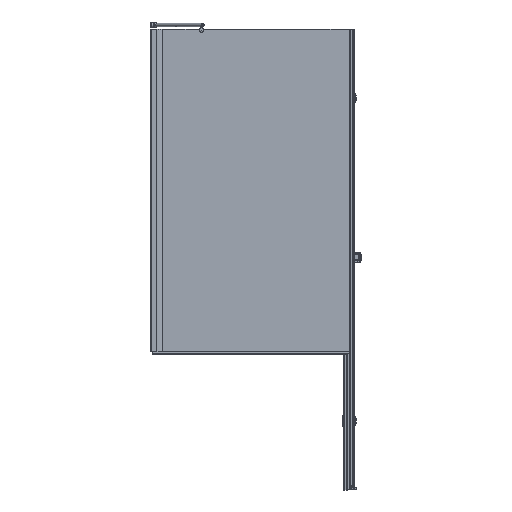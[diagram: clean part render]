
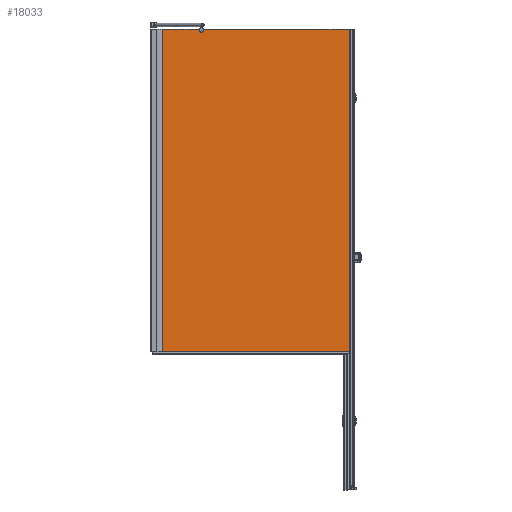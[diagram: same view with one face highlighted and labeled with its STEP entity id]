
A CAD part, front view. The second image highlights one B-rep face of the part: STEP entity #18033.
In plain terms, the highlighted planar face has unit normal (0, -1, 0).
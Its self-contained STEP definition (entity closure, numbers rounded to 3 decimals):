
#270=LINE($,#25747,#2007);
#308=LINE($,#25880,#2045);
#768=LINE($,#27426,#2505);
#774=LINE($,#27443,#2511);
#775=LINE($,#27444,#2512);
#2007=VECTOR($,#20593,631.666);
#2045=VECTOR($,#20691,160.474);
#2505=VECTOR($,#21827,1397.036);
#2511=VECTOR($,#21847,810.);
#2512=VECTOR($,#21848,1397.036);
#3980=PLANE($,#19243);
#4788=FACE_OUTER_BOUND($,#5808,.T.);
#5808=EDGE_LOOP($,(#12724,#12725,#12726,#12727,#12728,#12729));
#6628=CIRCLE($,#18846,10.);
#7240=VERTEX_POINT($,#25530);
#7242=VERTEX_POINT($,#25534);
#7263=VERTEX_POINT($,#25746);
#7328=VERTEX_POINT($,#25878);
#7746=VERTEX_POINT($,#27424);
#7750=VERTEX_POINT($,#27442);
#8887=EDGE_CURVE($,#7240,#7242,#6628,.T.);
#8915=EDGE_CURVE($,#7263,#7240,#270,.T.);
#8982=EDGE_CURVE($,#7242,#7328,#308,.T.);
#9598=EDGE_CURVE($,#7328,#7746,#768,.T.);
#9605=EDGE_CURVE($,#7750,#7746,#774,.T.);
#9606=EDGE_CURVE($,#7263,#7750,#775,.T.);
#12724=ORIENTED_EDGE($,*,*,#8887,.T.);
#12725=ORIENTED_EDGE($,*,*,#8982,.T.);
#12726=ORIENTED_EDGE($,*,*,#9598,.T.);
#12727=ORIENTED_EDGE($,*,*,#9605,.F.);
#12728=ORIENTED_EDGE($,*,*,#9606,.F.);
#12729=ORIENTED_EDGE($,*,*,#8915,.T.);
#18033=ADVANCED_FACE($,(#4788),#3980,.T.);
#18846=AXIS2_PLACEMENT_3D($,#25536,#20536,#20537);
#19243=AXIS2_PLACEMENT_3D($,#27441,#21845,#21846);
#20536=DIRECTION('center_axis',(0.,1.,0.));
#20537=DIRECTION('ref_axis',(-0.597,0.,
0.802));
#20593=DIRECTION($,(-1.,0.,0.));
#20691=DIRECTION($,(-1.,0.,0.));
#21827=DIRECTION($,(0.,0.,-1.));
#21845=DIRECTION('center_axis',(0.,-1.,0.));
#21846=DIRECTION('ref_axis',(-1.,0.,0.));
#21847=DIRECTION($,(-1.,0.,0.));
#21848=DIRECTION($,(0.,0.,-1.));
#25530=CARTESIAN_POINT('',(594.353,50.956,1484.944));
#25534=CARTESIAN_POINT('',(576.493,50.956,1484.944));
#25536=CARTESIAN_POINT('Origin',(585.423,50.956,1480.444));
#25746=CARTESIAN_POINT('',(1226.019,50.956,1484.944));
#25747=CARTESIAN_POINT($,(1231.019,50.956,1484.944));
#25878=CARTESIAN_POINT('',(416.019,50.956,1484.944));
#25880=CARTESIAN_POINT($,(1231.019,50.956,1484.944));
#27424=CARTESIAN_POINT('',(416.019,50.956,87.908));
#27426=CARTESIAN_POINT($,(416.019,50.956,784.944));
#27441=CARTESIAN_POINT('Origin',(1231.019,50.956,1484.944));
#27442=CARTESIAN_POINT('',(1226.019,50.956,87.908));
#27443=CARTESIAN_POINT($,(1228.519,50.956,87.908));
#27444=CARTESIAN_POINT($,(1226.019,50.956,494.944));
